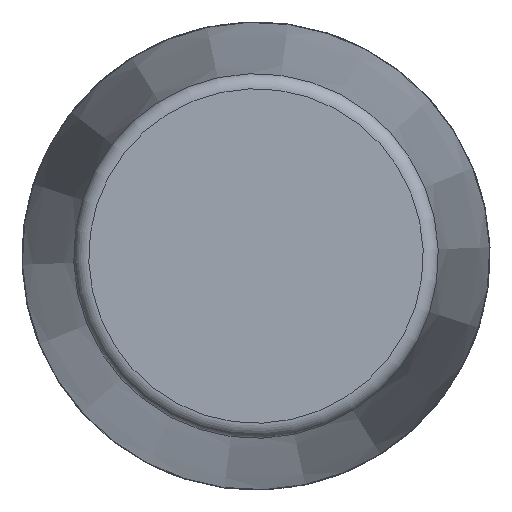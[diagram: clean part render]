
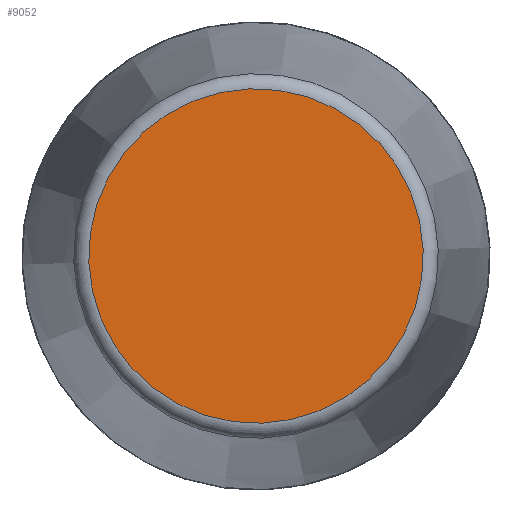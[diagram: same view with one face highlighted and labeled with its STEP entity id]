
A CAD part, front view. The second image highlights one B-rep face of the part: STEP entity #9052.
In plain terms, the highlighted planar face has unit normal (0, -1, 0) as drawn and (1, 0, 0) by its records, which use the part's own axes.
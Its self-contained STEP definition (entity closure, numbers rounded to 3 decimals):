
#2536=PLANE('',#9382);
#3110=FACE_OUTER_BOUND('',#3666,.T.);
#3666=EDGE_LOOP('',(#8535));
#3695=CIRCLE('',#9378,55.36);
#4587=VERTEX_POINT('',#17203);
#5906=EDGE_CURVE('',#4587,#4587,#3695,.T.);
#8535=ORIENTED_EDGE('',*,*,#5906,.F.);
#9052=ADVANCED_FACE('',(#3110),#2536,.T.);
#9378=AXIS2_PLACEMENT_3D('',#17204,#10640,#10641);
#9382=AXIS2_PLACEMENT_3D('',#17210,#10648,#10649);
#10640=DIRECTION('center_axis',(-1.,0.,0.));
#10641=DIRECTION('ref_axis',(0.,0.,
1.));
#10648=DIRECTION('center_axis',(1.,0.,0.));
#10649=DIRECTION('ref_axis',(0.,0.,-1.));
#17203=CARTESIAN_POINT('',(293.5,0.,-55.36));
#17204=CARTESIAN_POINT('Origin',(293.5,0.,0.));
#17210=CARTESIAN_POINT('Origin',(293.5,0.,0.));
